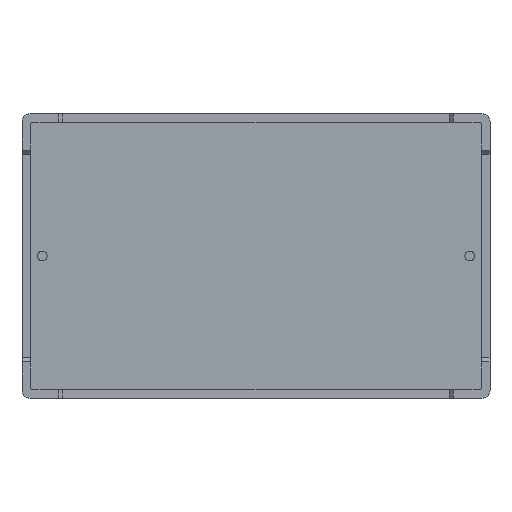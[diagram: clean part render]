
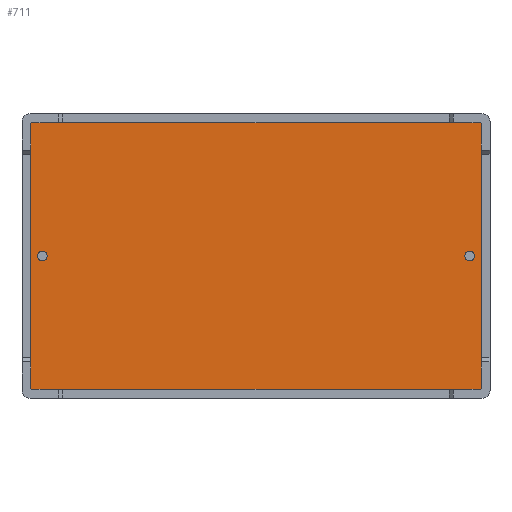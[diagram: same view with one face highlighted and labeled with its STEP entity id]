
A CAD part, front view. The second image highlights one B-rep face of the part: STEP entity #711.
In plain terms, the highlighted planar face has unit normal (0, -1, 0).
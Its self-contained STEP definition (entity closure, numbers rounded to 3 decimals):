
#130 = EDGE_CURVE ( 'NONE', #3255, #3180, #1129, .T. ) ;
#167 = EDGE_CURVE ( 'NONE', #3310, #3169, #984, .T. ) ;
#202 = EDGE_CURVE ( 'NONE', #3487, #3300, #863, .T. ) ;
#215 = AXIS2_PLACEMENT_3D ( 'NONE', #2622, #2617, #2599 ) ;
#224 = VERTEX_POINT ( 'NONE', #2875 ) ;
#231 = EDGE_CURVE ( 'NONE', #3668, #2794, #629, .T. ) ;
#240 = EDGE_CURVE ( 'NONE', #224, #362, #574, .T. ) ;
#249 = EDGE_CURVE ( 'NONE', #385, #305, #541, .T. ) ;
#255 = EDGE_CURVE ( 'NONE', #2794, #3487, #477, .T. ) ;
#265 = EDGE_CURVE ( 'NONE', #3300, #3310, #524, .T. ) ;
#274 = EDGE_CURVE ( 'NONE', #3169, #3255, #429, .T. ) ;
#281 = EDGE_CURVE ( 'NONE', #3180, #3668, #401, .T. ) ;
#289 = EDGE_CURVE ( 'NONE', #362, #224, #341, .T. ) ;
#305 = VERTEX_POINT ( 'NONE', #2235 ) ;
#341 = CIRCLE ( 'NONE', #1849, 0.6 ) ;
#362 = VERTEX_POINT ( 'NONE', #1743 ) ;
#385 = VERTEX_POINT ( 'NONE', #1666 ) ;
#401 = CIRCLE ( 'NONE', #1414, 0.1 ) ;
#429 = CIRCLE ( 'NONE', #1142, 0.1 ) ;
#477 = CIRCLE ( 'NONE', #485, 0.1 ) ;
#485 = AXIS2_PLACEMENT_3D ( 'NONE', #2567, #2564, #2543 ) ;
#524 = CIRCLE ( 'NONE', #834, 0.1 ) ;
#541 = CIRCLE ( 'NONE', #215, 0.6 ) ;
#574 = CIRCLE ( 'NONE', #4299, 0.6 ) ;
#614 = VECTOR ( 'NONE', #2784, 1000. ) ;
#629 = LINE ( 'NONE', #2789, #614 ) ;
#675 = CARTESIAN_POINT ( 'NONE',  ( 27.55, 1., 16.4 ) ) ;
#711 = ADVANCED_FACE ( 'NONE', ( #3949, #3860, #3908 ), #2411, .T. ) ;
#768 = DIRECTION ( 'NONE',  ( -1., 0., 0. ) ) ;
#794 = VECTOR ( 'NONE', #2970, 1000. ) ;
#834 = AXIS2_PLACEMENT_3D ( 'NONE', #2490, #2488, #2481 ) ;
#863 = LINE ( 'NONE', #3043, #794 ) ;
#957 = VECTOR ( 'NONE', #3182, 1000. ) ;
#984 = LINE ( 'NONE', #3230, #957 ) ;
#1066 = CARTESIAN_POINT ( 'NONE',  ( 27.65, 1., 16.4 ) ) ;
#1069 = DIRECTION ( 'NONE',  ( 0., -1., 0. ) ) ;
#1087 = VECTOR ( 'NONE', #768, 1000. ) ;
#1129 = LINE ( 'NONE', #1066, #1087 ) ;
#1142 = AXIS2_PLACEMENT_3D ( 'NONE', #2444, #2437, #2433 ) ;
#1269 = CARTESIAN_POINT ( 'NONE',  ( -27.65, 1., 16.3 ) ) ;
#1370 = EDGE_CURVE ( 'NONE', #305, #385, #1828, .T. ) ;
#1414 = AXIS2_PLACEMENT_3D ( 'NONE', #2340, #2335, #2327 ) ;
#1666 = CARTESIAN_POINT ( 'NONE',  ( -26.25, 1., 0.6 ) ) ;
#1743 = CARTESIAN_POINT ( 'NONE',  ( 26.25, 1., -0.6 ) ) ;
#1828 = CIRCLE ( 'NONE', #1884, 0.6 ) ;
#1844 = CARTESIAN_POINT ( 'NONE',  ( 27.55, 1., -16.4 ) ) ;
#1849 = AXIS2_PLACEMENT_3D ( 'NONE', #2249, #2242, #2240 ) ;
#1884 = AXIS2_PLACEMENT_3D ( 'NONE', #3064, #1069, #3339 ) ;
#1894 = CARTESIAN_POINT ( 'NONE',  ( -27.55, 1., -16.4 ) ) ;
#2077 = EDGE_LOOP ( 'NONE', ( #2404, #2452 ) ) ;
#2099 = EDGE_LOOP ( 'NONE', ( #2326, #2360 ) ) ;
#2157 = CARTESIAN_POINT ( 'NONE',  ( -27.55, 1., 16.4 ) ) ;
#2160 = EDGE_LOOP ( 'NONE', ( #2459, #2501, #2526, #2544, #2552, #2571, #2581, #2586 ) ) ;
#2235 = CARTESIAN_POINT ( 'NONE',  ( -26.25, 1., -0.6 ) ) ;
#2240 = DIRECTION ( 'NONE',  ( 0., 0., -1. ) ) ;
#2242 = DIRECTION ( 'NONE',  ( 0., -1., 0. ) ) ;
#2249 = CARTESIAN_POINT ( 'NONE',  ( 26.25, 1., 0. ) ) ;
#2326 = ORIENTED_EDGE ( 'NONE', *, *, #240, .F. ) ;
#2327 = DIRECTION ( 'NONE',  ( 0., 0., -1. ) ) ;
#2335 = DIRECTION ( 'NONE',  ( 0., -1., 0. ) ) ;
#2340 = CARTESIAN_POINT ( 'NONE',  ( -27.55, 1., 16.3 ) ) ;
#2360 = ORIENTED_EDGE ( 'NONE', *, *, #289, .F. ) ;
#2402 = DIRECTION ( 'NONE',  ( 0., 0., -1. ) ) ;
#2404 = ORIENTED_EDGE ( 'NONE', *, *, #249, .F. ) ;
#2411 = PLANE ( 'NONE',  #2869 ) ;
#2423 = CARTESIAN_POINT ( 'NONE',  ( 0., 1., 0. ) ) ;
#2433 = DIRECTION ( 'NONE',  ( 0., 0., -1. ) ) ;
#2437 = DIRECTION ( 'NONE',  ( 0., -1., 0. ) ) ;
#2444 = CARTESIAN_POINT ( 'NONE',  ( 27.55, 1., 16.3 ) ) ;
#2452 = ORIENTED_EDGE ( 'NONE', *, *, #1370, .F. ) ;
#2459 = ORIENTED_EDGE ( 'NONE', *, *, #231, .T. ) ;
#2481 = DIRECTION ( 'NONE',  ( 0., 0., -1. ) ) ;
#2488 = DIRECTION ( 'NONE',  ( 0., -1., 0. ) ) ;
#2490 = CARTESIAN_POINT ( 'NONE',  ( 27.55, 1., -16.3 ) ) ;
#2501 = ORIENTED_EDGE ( 'NONE', *, *, #255, .T. ) ;
#2503 = CARTESIAN_POINT ( 'NONE',  ( 27.65, 1., 16.3 ) ) ;
#2504 = DIRECTION ( 'NONE',  ( 0., -1., 0. ) ) ;
#2526 = ORIENTED_EDGE ( 'NONE', *, *, #202, .T. ) ;
#2543 = DIRECTION ( 'NONE',  ( 0., 0., -1. ) ) ;
#2544 = ORIENTED_EDGE ( 'NONE', *, *, #265, .T. ) ;
#2552 = ORIENTED_EDGE ( 'NONE', *, *, #167, .T. ) ;
#2564 = DIRECTION ( 'NONE',  ( 0., -1., 0. ) ) ;
#2567 = CARTESIAN_POINT ( 'NONE',  ( -27.55, 1., -16.3 ) ) ;
#2571 = ORIENTED_EDGE ( 'NONE', *, *, #274, .T. ) ;
#2581 = ORIENTED_EDGE ( 'NONE', *, *, #130, .T. ) ;
#2586 = ORIENTED_EDGE ( 'NONE', *, *, #281, .T. ) ;
#2599 = DIRECTION ( 'NONE',  ( 0., 0., -1. ) ) ;
#2617 = DIRECTION ( 'NONE',  ( 0., -1., 0. ) ) ;
#2622 = CARTESIAN_POINT ( 'NONE',  ( -26.25, 1., 0. ) ) ;
#2668 = DIRECTION ( 'NONE',  ( 0., 0., -1. ) ) ;
#2674 = DIRECTION ( 'NONE',  ( 0., -1., 0. ) ) ;
#2678 = CARTESIAN_POINT ( 'NONE',  ( 26.25, 1., 0. ) ) ;
#2784 = DIRECTION ( 'NONE',  ( 0., 0., -1. ) ) ;
#2789 = CARTESIAN_POINT ( 'NONE',  ( -27.65, 1., 16.4 ) ) ;
#2794 = VERTEX_POINT ( 'NONE', #3044 ) ;
#2869 = AXIS2_PLACEMENT_3D ( 'NONE', #2423, #2504, #2402 ) ;
#2875 = CARTESIAN_POINT ( 'NONE',  ( 26.25, 1., 0.6 ) ) ;
#2970 = DIRECTION ( 'NONE',  ( 1., 0., 0. ) ) ;
#3043 = CARTESIAN_POINT ( 'NONE',  ( -27.65, 1., -16.4 ) ) ;
#3044 = CARTESIAN_POINT ( 'NONE',  ( -27.65, 1., -16.3 ) ) ;
#3064 = CARTESIAN_POINT ( 'NONE',  ( -26.25, 1., 0. ) ) ;
#3169 = VERTEX_POINT ( 'NONE', #2503 ) ;
#3180 = VERTEX_POINT ( 'NONE', #2157 ) ;
#3182 = DIRECTION ( 'NONE',  ( 0., 0., 1. ) ) ;
#3230 = CARTESIAN_POINT ( 'NONE',  ( 27.65, 1., -16.4 ) ) ;
#3255 = VERTEX_POINT ( 'NONE', #675 ) ;
#3300 = VERTEX_POINT ( 'NONE', #1844 ) ;
#3310 = VERTEX_POINT ( 'NONE', #3681 ) ;
#3339 = DIRECTION ( 'NONE',  ( 0., 0., -1. ) ) ;
#3487 = VERTEX_POINT ( 'NONE', #1894 ) ;
#3668 = VERTEX_POINT ( 'NONE', #1269 ) ;
#3681 = CARTESIAN_POINT ( 'NONE',  ( 27.65, 1., -16.3 ) ) ;
#3860 = FACE_BOUND ( 'NONE', #2077, .T. ) ;
#3908 = FACE_OUTER_BOUND ( 'NONE', #2160, .T. ) ;
#3949 = FACE_BOUND ( 'NONE', #2099, .T. ) ;
#4299 = AXIS2_PLACEMENT_3D ( 'NONE', #2678, #2674, #2668 ) ;
